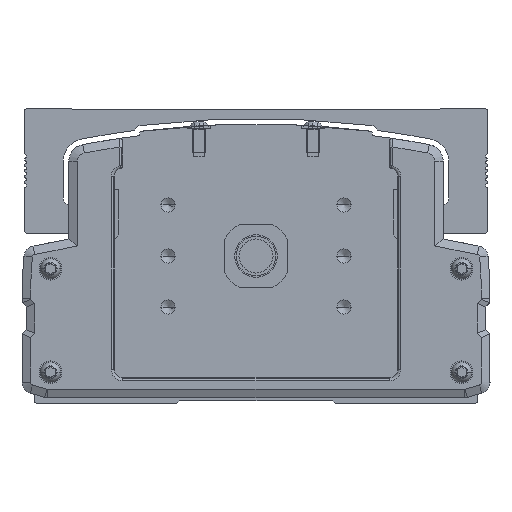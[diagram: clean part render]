
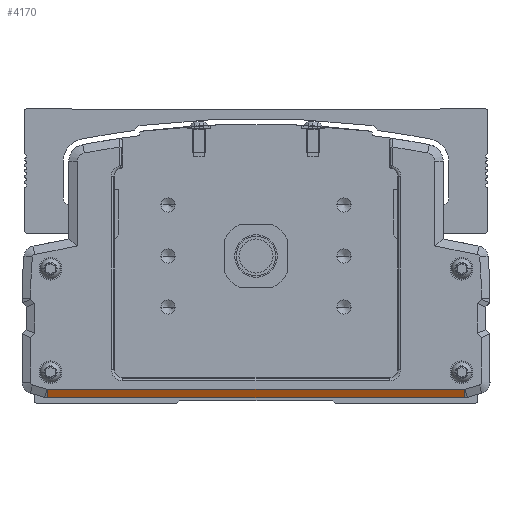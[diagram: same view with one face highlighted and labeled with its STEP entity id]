
A CAD part, front view. The second image highlights one B-rep face of the part: STEP entity #4170.
In plain terms, the highlighted planar face has unit normal (0, -0.894, -0.447).
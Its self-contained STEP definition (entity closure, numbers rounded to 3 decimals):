
#4170=ADVANCED_FACE('',(#9440),#9441,.F.);
#9440=FACE_OUTER_BOUND('',#16897,.T.);
#9441=PLANE('',#16898);
#16897=EDGE_LOOP('',(#30852,#30853,#30854,#30855));
#16898=AXIS2_PLACEMENT_3D('',#30856,#30857,#30858);
#30852=ORIENTED_EDGE('',*,*,#40441,.T.);
#30853=ORIENTED_EDGE('',*,*,#41809,.F.);
#30854=ORIENTED_EDGE('',*,*,#43856,.F.);
#30855=ORIENTED_EDGE('',*,*,#42990,.F.);
#30856=CARTESIAN_POINT('',(-599.999,-236.278,-50.001));
#30857=DIRECTION('',(0.,0.894,0.447));
#30858=DIRECTION('',(0.,0.447,-0.894));
#40441=EDGE_CURVE('',#48134,#48132,#48135,.T.);
#41809=EDGE_CURVE('',#50592,#48132,#50594,.T.);
#42990=EDGE_CURVE('',#48134,#52529,#52530,.T.);
#43856=EDGE_CURVE('',#52529,#50592,#53817,.T.);
#48132=VERTEX_POINT('',#59293);
#48134=VERTEX_POINT('',#59295);
#48135=LINE('',#59296,#59297);
#50592=VERTEX_POINT('',#62832);
#50594=LINE('',#62835,#62836);
#52529=VERTEX_POINT('',#65881);
#52530=LINE('',#65882,#65883);
#53817=LINE('',#67893,#67894);
#59293=CARTESIAN_POINT('',(-673.423,-236.278,-50.001));
#59295=CARTESIAN_POINT('',(-673.423,-237.778,-47.001));
#59296=CARTESIAN_POINT('',(-673.423,-237.778,-47.001));
#59297=VECTOR('',#75523,1000.0);
#62832=CARTESIAN_POINT('',(-526.575,-236.278,-50.001));
#62835=CARTESIAN_POINT('',(-599.999,-236.278,-50.001));
#62836=VECTOR('',#77192,1000.0);
#65881=CARTESIAN_POINT('',(-526.575,-237.778,-47.001));
#65882=CARTESIAN_POINT('',(-600.015,-237.778,-47.001));
#65883=VECTOR('',#78782,1000.0);
#67893=CARTESIAN_POINT('',(-526.575,-237.778,-47.001));
#67894=VECTOR('',#79789,1000.0);
#75523=DIRECTION('',(0.,0.447,-0.894));
#77192=DIRECTION('',(-1.0,0.,0.));
#78782=DIRECTION('',(1.0,0.,0.));
#79789=DIRECTION('',(0.,0.447,-0.894));
